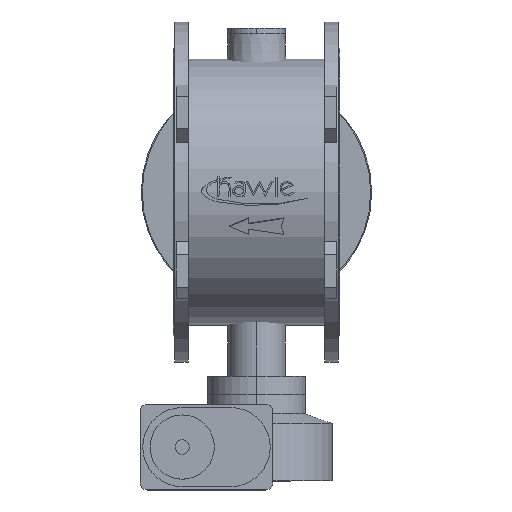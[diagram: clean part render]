
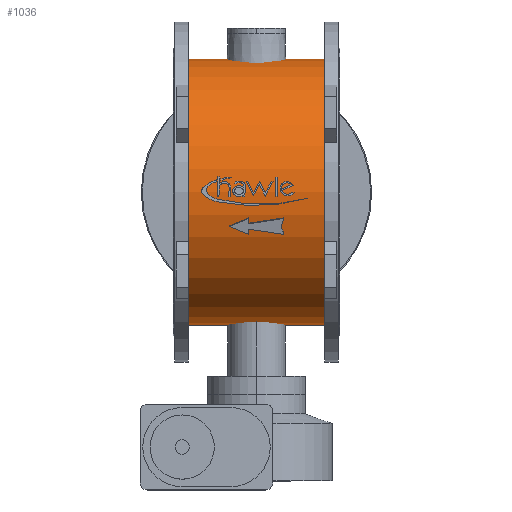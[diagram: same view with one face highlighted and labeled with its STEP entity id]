
A CAD part, top view. The second image highlights one B-rep face of the part: STEP entity #1036.
In plain terms, the highlighted cylindrical face has radius 279.5 mm (diameter 559 mm), a partial arc.
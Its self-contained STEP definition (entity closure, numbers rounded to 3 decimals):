
#1036=ADVANCED_FACE('',(#2195),#2196,.T.);
#2195=FACE_OUTER_BOUND('',#3942,.T.);
#2196=CYLINDRICAL_SURFACE('',#3943,279.5);
#3942=EDGE_LOOP('',(#5549,#5550,#5551,#5552));
#3943=AXIS2_PLACEMENT_3D('',#5553,#5554,#5555);
#5549=ORIENTED_EDGE('',*,*,#9160,.T.);
#5550=ORIENTED_EDGE('',*,*,#9161,.T.);
#5551=ORIENTED_EDGE('',*,*,#9162,.T.);
#5552=ORIENTED_EDGE('',*,*,#9163,.T.);
#5553=CARTESIAN_POINT('',(-318.5,0.,0.0));
#5554=DIRECTION('',(1.0,0.,0.0));
#5555=DIRECTION('',(0.,-1.0,0.0));
#9160=EDGE_CURVE('',#10730,#10731,#10732,.T.);
#9161=EDGE_CURVE('',#10731,#10733,#10734,.T.);
#9162=EDGE_CURVE('',#10733,#10735,#10736,.T.);
#9163=EDGE_CURVE('',#10735,#10730,#10737,.T.);
#10730=VERTEX_POINT('',#12893);
#10731=VERTEX_POINT('',#12894);
#10732=LINE('',#12895,#12896);
#10733=VERTEX_POINT('',#12897);
#10734=CIRCLE('',#12898,279.5);
#10735=VERTEX_POINT('',#12899);
#10736=LINE('',#12900,#12901);
#10737=CIRCLE('',#12902,279.5);
#12893=CARTESIAN_POINT('',(-318.5,-279.5,0.0));
#12894=CARTESIAN_POINT('',(-31.5,-279.5,0.0));
#12895=CARTESIAN_POINT('',(-318.5,-279.5,0.));
#12896=VECTOR('',#15426,1.0);
#12897=CARTESIAN_POINT('',(-31.5,279.5,0.));
#12898=AXIS2_PLACEMENT_3D('',#15427,#15428,#15429);
#12899=CARTESIAN_POINT('',(-318.5,279.5,0.));
#12900=CARTESIAN_POINT('',(-318.5,279.5,0.));
#12901=VECTOR('',#15430,1.0);
#12902=AXIS2_PLACEMENT_3D('',#15431,#15432,#15433);
#15426=DIRECTION('',(1.0,0.,0.0));
#15427=CARTESIAN_POINT('',(-31.5,0.,0.0));
#15428=DIRECTION('',(-1.0,0.,0.0));
#15429=DIRECTION('',(0.,-1.0,0.0));
#15430=DIRECTION('',(-1.0,0.,-0.0));
#15431=CARTESIAN_POINT('',(-318.5,0.,0.0));
#15432=DIRECTION('',(1.0,0.,0.0));
#15433=DIRECTION('',(0.,-1.0,0.0));
